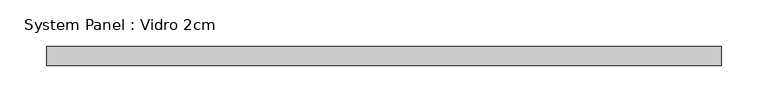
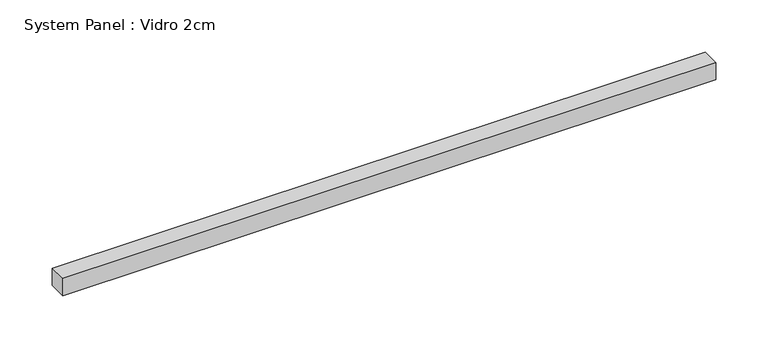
"""IFC4 building model written with IfcOpenShell, lengths in millimetres: plate geometry, System Panel : Vidro 2cm."""

from ifc_helpers import new_model, si_unit, origin, origin_with_axes, place, context, project, spatial, polyline, outline, extrude, source, transform, mapped, element, save


def system_panel_vidro_2cm_1f93eb52(model_context):
    return source(origin(), model_context, "Body", "SweptSolid", [
        extrude(outline(polyline([(359.9999998, -20.0), (-359.9999998, -20.0), (-359.9999998, 0.0), (359.9999998, 0.0), (359.9999998, -20.0)])), origin_with_axes(), (0.0, 0.0, 1.0), 20.0),
    ])


if __name__ == "__main__":
    model = new_model("IFC4")
    model_context = context("Model", 3, world=origin())
    ifc_project = project(units=[si_unit("LENGTHUNIT", "METRE", prefix="MILLI")], contexts=[model_context])
    site = spatial("IfcSite", under=ifc_project)
    building = spatial("IfcBuilding", under=site)
    placement = place(None, origin())
    system_panel_vidro_2cm_shape = system_panel_vidro_2cm_1f93eb52(model_context)
    element("IfcPlate", 1, ObjectType="System Panel : Vidro 2cm", at=placement, inside=building, context=model_context, shape_type="MappedRepresentation", body=[
        mapped(system_panel_vidro_2cm_shape, transform((0.0, 0.0, 0.0), x_axis=(1.0, 0.0, 0.0), y_axis=(0.0, 1.0, 0.0), z_axis=(0.0, 0.0, 1.0))),
    ])
    save(model, "model.ifc")
